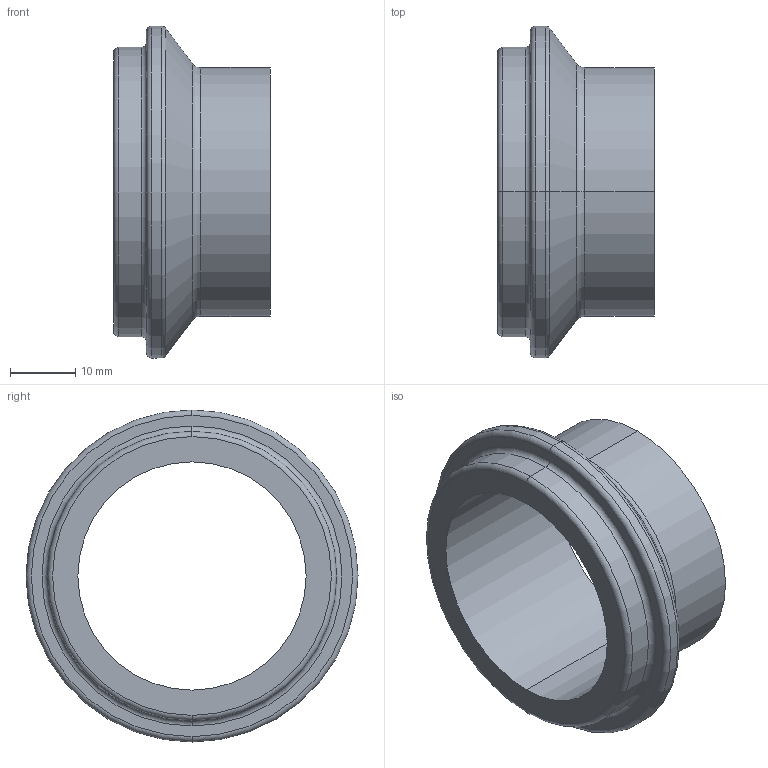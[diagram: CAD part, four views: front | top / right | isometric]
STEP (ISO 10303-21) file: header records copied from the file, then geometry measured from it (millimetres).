
FILE_DESCRIPTION (( 'STEP AP214' ), '1' );
FILE_NAME ('E14WI 1.5 REV2.STEP', '2025-07-18T14:30:29', ( '' ), ( '' ), 'SwSTEP 2.0', 'SolidWorks 2022', '' );
FILE_SCHEMA (( 'AUTOMOTIVE_DESIGN' ));
Length unit declared in the file: inch
Products named in the file (1): E14WI 1.5 REV2
Bounding box: 24 x 50.8 x 50.8 mm (x, y, z)
Volume: 10792.6 mm3; surface area: 7325.1 mm2
Topology: 1 solids, 1 shells, 23 faces, 46 edges, 26 vertices
Faces by surface type: torus 10, cylinder 8, plane 3, cone 2
Entity records: 648 total; most frequent: DIRECTION 130, CARTESIAN_POINT 96, ORIENTED_EDGE 92, AXIS2_PLACEMENT_3D 60, EDGE_CURVE 46, CIRCLE 36, EDGE_LOOP 26, VERTEX_POINT 26
